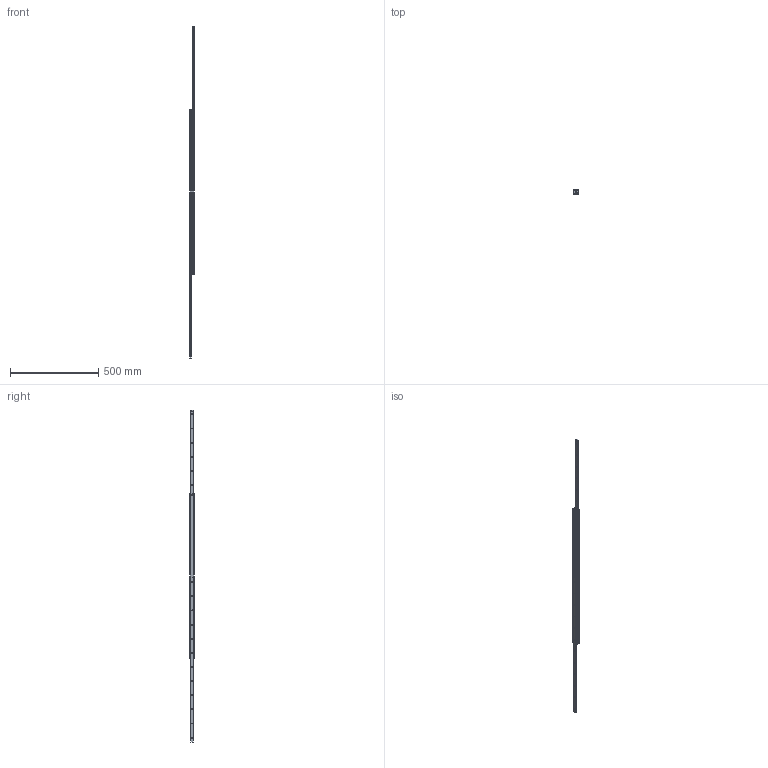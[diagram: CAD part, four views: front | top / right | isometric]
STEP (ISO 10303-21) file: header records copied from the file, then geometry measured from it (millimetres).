
FILE_DESCRIPTION( ( 'STEP AP214' ), '1' );
FILE_NAME( 'p:/temp/worker_94/temp/exporttempdir_5220_770_DyeR5/format_1/DEF28-930950.stp', '2020-03-20T19:47:25', ( 'License CC BY-ND 4.0' ), ( 'CADENAS' ), ' ', 'PARTsolutions', ' ' );
FILE_SCHEMA( ( 'AUTOMOTIVE_DESIGN { 1 0 10303 214 1 1 1 1 }' ) );
Length unit declared in the file: millimetre
Products named in the file (4): DEF28-930950; _282193095012-gf; _28219309501-ei; _282193095011-gf
Assembly tree (4 placements, depth 2):
  DEF28-930950
    _282193095012-gf
    _28219309501-ei  x2
    _282193095011-gf
Bounding box: 26 x 28 x 1880 mm (x, y, z)
Volume: 450985.8 mm3; surface area: 268818.5 mm2
Topology: 4 solids, 4 shells, 222 faces, 556 edges, 354 vertices
Faces by surface type: plane 102, cylinder 68, cone 52
Full cylindrical faces by diameter (mm): 4.134 x24, 5 x2
Entity records: 6368 total; most frequent: DIRECTION 880, CARTESIAN_POINT 810, ORIENTED_EDGE 716, EDGE_CURVE 358, AXIS2_PLACEMENT_3D 342, EDGE_LOOP 306, VERTEX_POINT 272, FACE_OUTER_BOUND 200
